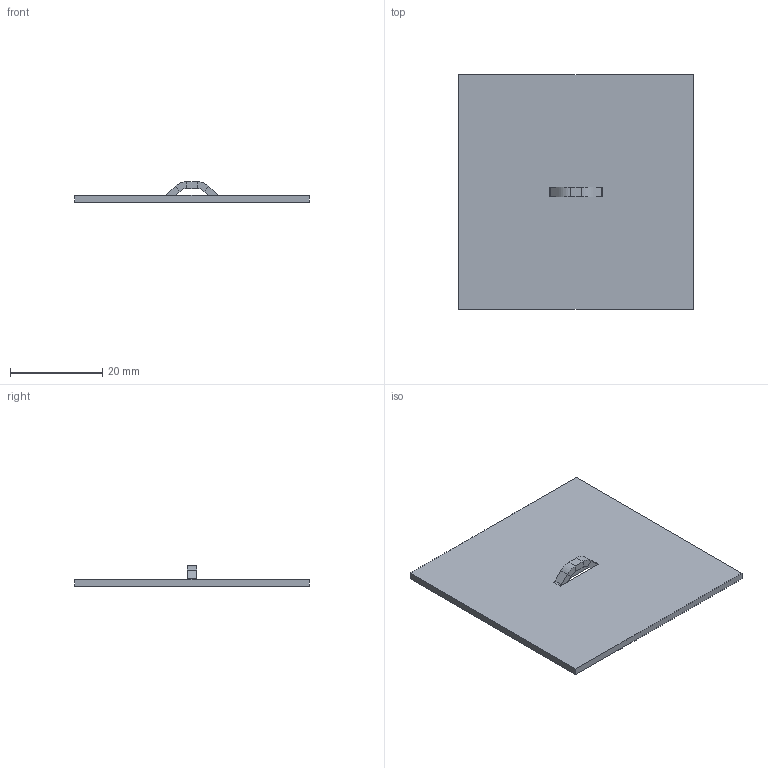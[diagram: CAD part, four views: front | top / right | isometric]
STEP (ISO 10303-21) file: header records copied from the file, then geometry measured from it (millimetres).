
FILE_DESCRIPTION((''),'2;1');
FILE_NAME('C:/Users/robertnolte/Desktop/MESS/LANCE 407-6263-00 REV 02.STP', '2022-10-24T21:25:18',(''), (''), 'Kubotek Kosmos Version 4.1.0.0', 'KeyCreator Pro', '');
FILE_SCHEMA(('CONFIG_CONTROL_DESIGN'));
Length unit declared in the file: inch
Bounding box: 50.8 x 50.8 x 4.5 mm (x, y, z)
Volume: 3877.4 mm3; surface area: 5551 mm2
Topology: 1 solids, 1 shells, 36 faces, 76 edges, 40 vertices
Faces by surface type: plane 28, cylinder 8
Entity records: 1146 total; most frequent: DIRECTION 166, CARTESIAN_POINT 156, ORIENTED_EDGE 152, GENERAL_PROPERTY 113, EDGE_CURVE 76, VECTOR 60, LINE 60, AXIS2_PLACEMENT_3D 53
